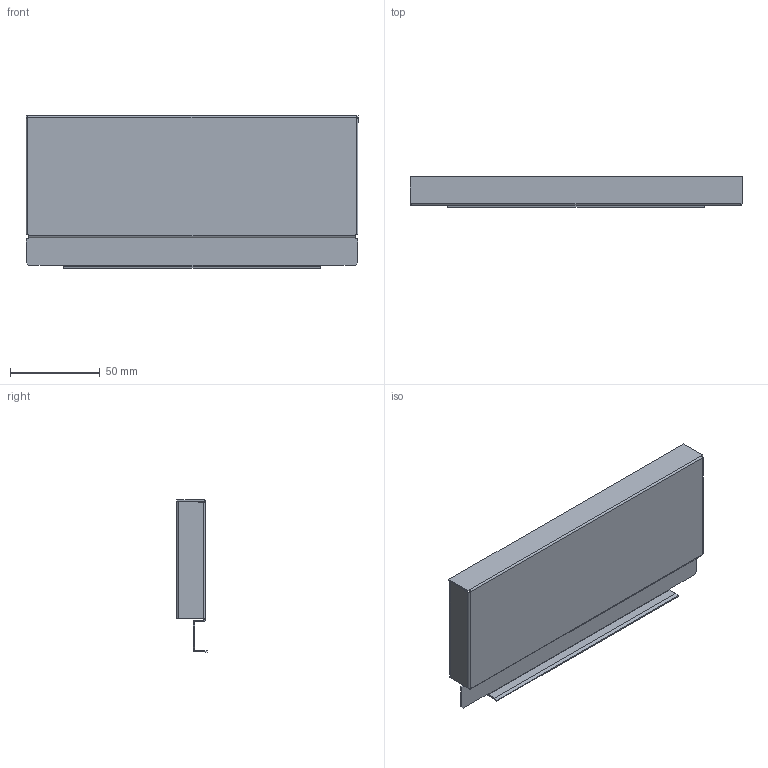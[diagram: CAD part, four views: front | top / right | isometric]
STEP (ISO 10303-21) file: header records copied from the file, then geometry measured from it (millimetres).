
FILE_DESCRIPTION (( 'STEP AP214' ), '1' );
FILE_NAME ('_STRW_H90_KAB_275.step', '2010-08-24T14:40:11', ( 'grass' ), ( '' ), 'SwSTEP 2.0', 'SolidWorks 2009', '' );
FILE_SCHEMA (( 'AUTOMOTIVE_DESIGN' ));
Length unit declared in the file: millimetre
Products named in the file (1): _STRW_H90_KAB_275
Bounding box: 185 x 17 x 85.14 mm (x, y, z)
Volume: 18388.4 mm3; surface area: 46524.9 mm2
Topology: 1 solids, 1 shells, 76 faces, 214 edges, 140 vertices
Faces by surface type: plane 54, cylinder 22
Entity records: 2472 total; most frequent: CARTESIAN_POINT 431, ORIENTED_EDGE 428, DIRECTION 412, EDGE_CURVE 214, LINE 170, VECTOR 170, VERTEX_POINT 140, AXIS2_PLACEMENT_3D 121
